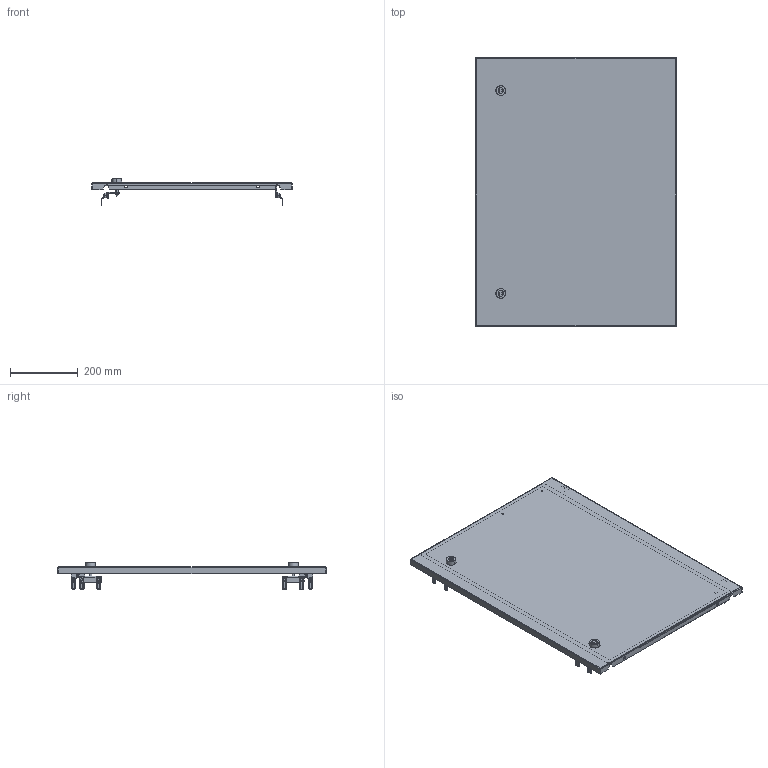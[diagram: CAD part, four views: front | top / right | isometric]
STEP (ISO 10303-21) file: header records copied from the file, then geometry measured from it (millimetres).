
FILE_DESCRIPTION(('CAx-IF Rec.Pracs.---Model Styling and Organization---1.2---2011-12-15','CAx-IF Rec.Pracs.---Geometric and Assembly Validation Properties---4.1---2014-06-16','CAx-IF Rec.Pracs.---PMI Polyline Presentation---2.0---2013-05-24'),'2;1');
FILE_NAME('R5CPMEM6800.stp','2021-05-06T03:55:00+03:00',(''),(''),'STEP Interface 4.4 by CT CoreTechnologie','3D_Evolution4.4 by CT CoreTechnologie','');
FILE_SCHEMA(('AUTOMOTIVE_DESIGN { 1 0 10303 214 1 1 1 1 }'));
Length unit declared in the file: millimetre
Products named in the file (18): R5CPMEM6800; M6 x 16-DIN 7991 ISR_stright; AC00C485; M6 x 16-DIN 7991 ISR_thread; MS737-1-1(1); MS737-1-1 Z_ ªàëâ; MS737-1-1 stop_fixed; RB.0687.00.00.1; AC00C745; MS737-1-1(2); RB.0116.00.00.2_-00; RB.0556.00.00.3 ÑÁ_-41; Ì6õ12-A5100231_straight; PF 7x14 R5PKEB_0800x0600; Ì6õ12-A5100231_thread; AC00C061_AC00C061; AC00C266; RB.0556.00.01.1_-41
Assembly tree (39 placements, depth 3):
  R5CPMEM6800
    M6 x 16-DIN 7991 ISR_stright  x4
    AC00C485  x8
    M6 x 16-DIN 7991 ISR_thread  x4
    MS737-1-1(1)
      MS737-1-1 Z_ ªàëâ
      MS737-1-1 stop_fixed
    RB.0687.00.00.1  x2
    AC00C745  x2
    MS737-1-1(2)
      MS737-1-1 Z_ ªàëâ
      MS737-1-1 stop_fixed
    RB.0116.00.00.2_-00  x2
    RB.0556.00.00.3 ÑÁ_-41
      Ì6õ12-A5100231_straight
      PF 7x14 R5PKEB_0800x0600
      Ì6õ12-A5100231_thread  x2
      AC00C061_AC00C061  x3
      AC00C266  x2
      RB.0556.00.01.1_-41
Bounding box: 594 x 795 x 77.95 mm (x, y, z)
Surface area: 1200035.8 mm2 (no closed solid volume)
Topology: 0 solids, 58 shells, 2308 faces, 6063 edges, 3853 vertices
Faces by surface type: bspline 860, cylinder 768, plane 680
Entity records: 35291 total; most frequent: CARTESIAN_POINT 11730, ORIENTED_EDGE 4940, DIRECTION 4581, EDGE_CURVE 2470, AXIS2_PLACEMENT_3D 1664, VERTEX_POINT 1597, VECTOR 1253, LINE 1253
